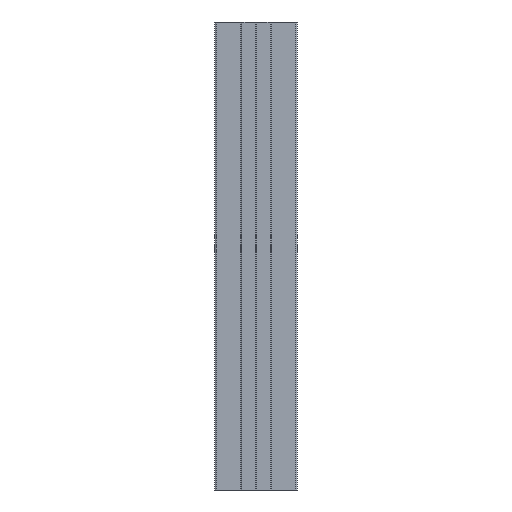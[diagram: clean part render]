
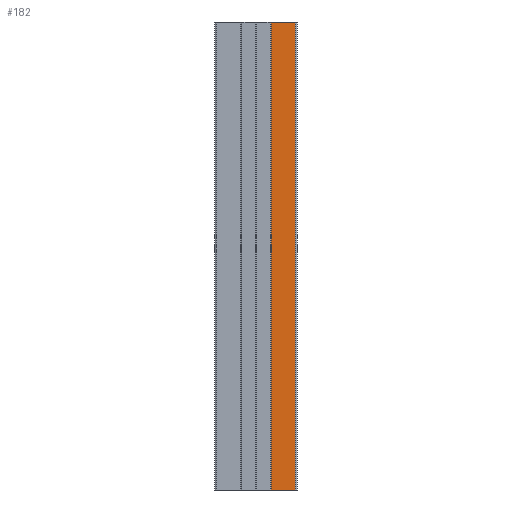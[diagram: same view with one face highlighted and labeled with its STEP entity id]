
A CAD part, front view. The second image highlights one B-rep face of the part: STEP entity #182.
In plain terms, the highlighted planar face has unit normal (0, -1, 0).
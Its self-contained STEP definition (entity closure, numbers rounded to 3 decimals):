
#177 = VERTEX_POINT ( 'NONE', #2219 ) ;
#181 = ORIENTED_EDGE ( 'NONE', *, *, #257, .T. ) ;
#182 = ADVANCED_FACE ( 'NONE', ( #2153 ), #2140, .F. ) ;
#184 = VERTEX_POINT ( 'NONE', #2065 ) ;
#185 = EDGE_CURVE ( 'NONE', #254, #177, #2062, .T. ) ;
#187 = ORIENTED_EDGE ( 'NONE', *, *, #189, .F. ) ;
#188 = EDGE_CURVE ( 'NONE', #275, #184, #2064, .T. ) ;
#189 = EDGE_CURVE ( 'NONE', #184, #177, #2057, .T. ) ;
#252 = ORIENTED_EDGE ( 'NONE', *, *, #185, .T. ) ;
#254 = VERTEX_POINT ( 'NONE', #2366 ) ;
#257 = EDGE_CURVE ( 'NONE', #275, #254, #2363, .T. ) ;
#263 = EDGE_LOOP ( 'NONE', ( #252, #187, #303, #181 ) ) ;
#275 = VERTEX_POINT ( 'NONE', #2425 ) ;
#303 = ORIENTED_EDGE ( 'NONE', *, *, #188, .F. ) ;
#2053 = DIRECTION ( 'NONE',  ( 0., 0., 1. ) ) ;
#2054 = VECTOR ( 'NONE', #2053, 1000. ) ;
#2056 = CARTESIAN_POINT ( 'NONE',  ( 16.12, -44., -500. ) ) ;
#2057 = LINE ( 'NONE', #2056, #2054 ) ;
#2058 = VECTOR ( 'NONE', #2066, 1000. ) ;
#2059 = DIRECTION ( 'NONE',  ( -1., 0., 0. ) ) ;
#2060 = VECTOR ( 'NONE', #2059, 1000. ) ;
#2061 = CARTESIAN_POINT ( 'NONE',  ( 42., -44., 0. ) ) ;
#2062 = LINE ( 'NONE', #2061, #2060 ) ;
#2064 = LINE ( 'NONE', #2067, #2058 ) ;
#2065 = CARTESIAN_POINT ( 'NONE',  ( 16.12, -44., -500. ) ) ;
#2066 = DIRECTION ( 'NONE',  ( -1., 0., 0. ) ) ;
#2067 = CARTESIAN_POINT ( 'NONE',  ( 42., -44., -500. ) ) ;
#2140 = PLANE ( 'NONE',  #2152 ) ;
#2142 = CARTESIAN_POINT ( 'NONE',  ( 42., -44., -500. ) ) ;
#2149 = DIRECTION ( 'NONE',  ( 0., 0., 1. ) ) ;
#2150 = DIRECTION ( 'NONE',  ( 0., 1., 0. ) ) ;
#2152 = AXIS2_PLACEMENT_3D ( 'NONE', #2142, #2150, #2149 ) ;
#2153 = FACE_OUTER_BOUND ( 'NONE', #263, .T. ) ;
#2219 = CARTESIAN_POINT ( 'NONE',  ( 16.12, -44., 0. ) ) ;
#2360 = DIRECTION ( 'NONE',  ( 0., 0., 1. ) ) ;
#2361 = VECTOR ( 'NONE', #2360, 1000. ) ;
#2362 = CARTESIAN_POINT ( 'NONE',  ( 42., -44., -500. ) ) ;
#2363 = LINE ( 'NONE', #2362, #2361 ) ;
#2366 = CARTESIAN_POINT ( 'NONE',  ( 42., -44., 0. ) ) ;
#2425 = CARTESIAN_POINT ( 'NONE',  ( 42., -44., -500. ) ) ;
